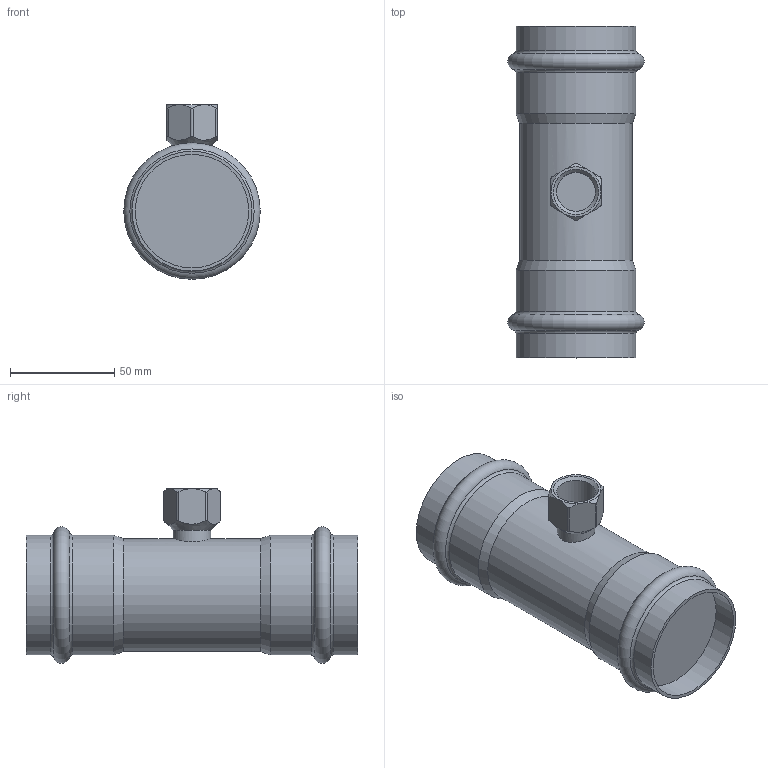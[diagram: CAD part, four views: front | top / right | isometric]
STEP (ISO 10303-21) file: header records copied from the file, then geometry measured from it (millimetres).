
FILE_DESCRIPTION(('STEP AP203'), '1');
FILE_NAME('VTi.932.I.540454', '', ('UNSPECIFIED'), ('UNSPECIFIED'), 'C3D Converter', 'C3D Toolkit', '');
FILE_SCHEMA(('CONFIG_CONTROL_DESIGN'));
Length unit declared in the file: millimetre
Bounding box: 65.38 x 159 x 83.69 mm (x, y, z)
Volume: 352326.9 mm3; surface area: 41930.9 mm2
Topology: 1 solids, 1 shells, 43 faces, 94 edges, 56 vertices
Faces by surface type: cylinder 15, plane 12, cone 10, torus 6
Full cylindrical faces by diameter (mm): 18 x1, 18.632 x1, 54 x1, 54.4 x2, 57.4 x4
Entity records: 2351 total; most frequent: CARTESIAN_POINT 1497, DIRECTION 156, ORIENTED_EDGE 148, EDGE_CURVE 74, AXIS2_PLACEMENT_3D 72, EDGE_LOOP 66, VERTEX_POINT 56, ADVANCED_FACE 43
